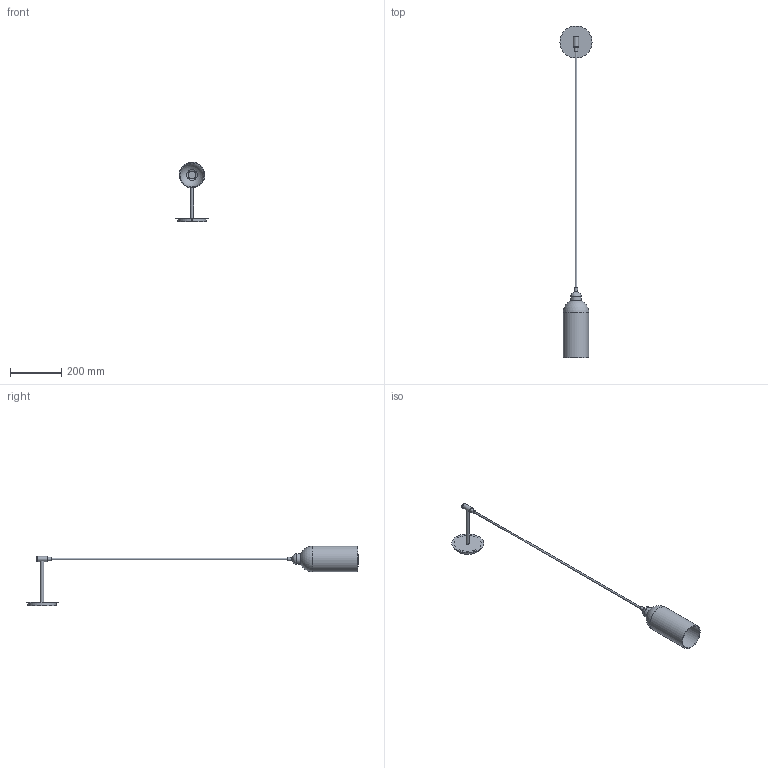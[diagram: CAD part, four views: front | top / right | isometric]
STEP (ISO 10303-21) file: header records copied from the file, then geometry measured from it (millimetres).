
FILE_DESCRIPTION(/* description */ (''),/* implementation_level */ '2;1');
FILE_NAME(/* name */ 'B741 Odyssey Sunset V1 CE katalog.stp',/* time_stamp */ '2025-07-28T11:36:30+02:00',/* author */ ('Lukasz'),/* organization */ (''),/* preprocessor_version */ 'ST-DEVELOPER v20.1',/* originating_system */ 'Autodesk Inventor 2026',/* authorisation */ '');
FILE_SCHEMA (('AUTOMOTIVE_DESIGN { 1 0 10303 214 3 1 1 }'));
Length unit declared in the file: millimetre
Products named in the file (1): B741 Odyssey Sunset V1 CE katalog
Bounding box: 125 x 1294.05 x 232.4 mm (x, y, z)
Volume: 471659.5 mm3; surface area: 235778.2 mm2
Topology: 15 solids, 15 shells, 146 faces, 295 edges, 183 vertices
Faces by surface type: plane 69, cylinder 54, cone 17, bspline 2, torus 2, sphere 2
Full cylindrical faces by diameter (mm): 4 x3, 7 x1, 7.6 x1, 8.6 x1, 10 x2, 11.6 x1, 13 x4, 20 x2, 30 x1, 42 x1, 94 x1, 100 x1, 110 x1, 125 x1
Entity records: 4089 total; most frequent: DIRECTION 728, CARTESIAN_POINT 677, ORIENTED_EDGE 590, EDGE_CURVE 295, AXIS2_PLACEMENT_3D 288, VERTEX_POINT 183, STYLED_ITEM 161, EDGE_LOOP 152
